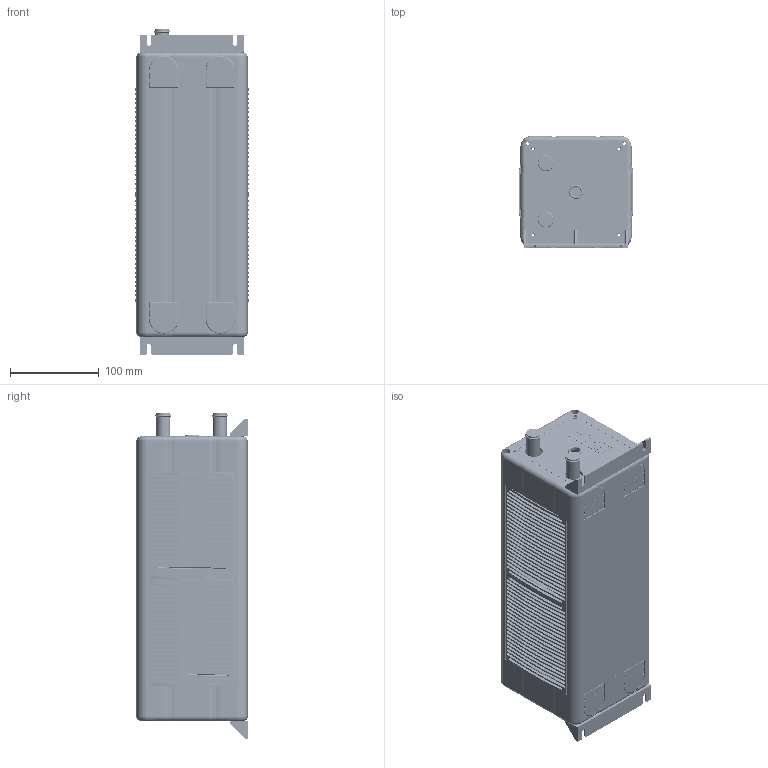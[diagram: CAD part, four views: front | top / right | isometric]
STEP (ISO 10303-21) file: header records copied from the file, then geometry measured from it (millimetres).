
FILE_DESCRIPTION( ( 'STEP AP203' ), '1' );
FILE_NAME( ' ', ' ', ( ' ' ), ( ' ' ), 'PSStep 10.0', ' ', ' ' );
FILE_SCHEMA( ( 'CONFIG_CONTROL_DESIGN' ) );
Length unit declared in the file: millimetre
Products named in the file (39): 1; 2; 3; 4; 5; 6; 7; 8; 9; 10; 11; 12; 13; 14; 15; 16; 17; 18; 19; 20; 21; 22; 23; 24; 25; 26; 27; 28; 29; 30; 31; 32; 33; 34; 35; 36; 37; 38; 39
Bounding box: 128.34 x 125 x 366.2 mm (x, y, z)
Volume: 1849259.4 mm3; surface area: 787372 mm2
Topology: 39 solids, 39 shells, 8557 faces, 24760 edges, 15763 vertices
Faces by surface type: plane 5351, cylinder 2325, bspline 582, extrusion 106, torus 67, offset 56, sphere 36, cone 34
Full cylindrical faces by diameter (mm): 3 x26, 3.3 x8, 4 x30, 5 x12, 9 x2, 10 x2, 11 x1, 16 x5, 20 x2, 40 x2, 50 x2
Entity records: 322188 total; most frequent: CARTESIAN_POINT 98852, ORIENTED_EDGE 49116, DIRECTION 42832, EDGE_CURVE 24558, VECTOR 16912, LINE 16806, VERTEX_POINT 15736, AXIS2_PLACEMENT_3D 12960
